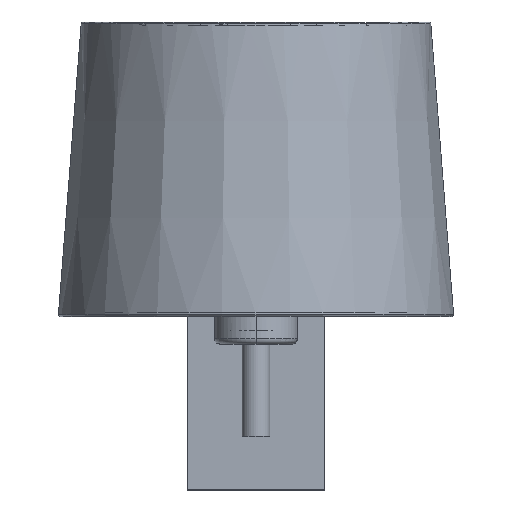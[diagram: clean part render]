
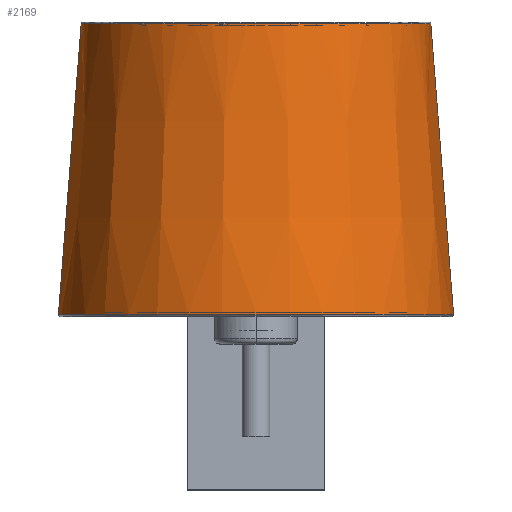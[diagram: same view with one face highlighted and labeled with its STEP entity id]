
A CAD part, top view. The second image highlights one B-rep face of the part: STEP entity #2169.
In plain terms, the highlighted conical face has half-angle 4.466 degrees and reference radius 106.184 mm.
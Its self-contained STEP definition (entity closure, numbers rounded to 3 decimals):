
#33=CONICAL_SURFACE('',#2388,106.184,0.078);
#93=B_SPLINE_CURVE_WITH_KNOTS('',3,(#4852,#4853,#4854,#4855,#4856,#4857,
#4858,#4859,#4860,#4861,#4862,#4863),.UNSPECIFIED.,.F.,.F.,(4,1,1,1,1,1,
1,1,1,4),(0.,0.111,0.222,0.333,0.444,
0.556,0.667,0.778,0.889,
1.),.UNSPECIFIED.);
#307=FACE_OUTER_BOUND('',#455,.T.);
#455=EDGE_LOOP('',(#1872,#1873,#1874,#1875));
#561=CIRCLE('',#2384,107.419);
#716=LINE('',#4865,#872);
#717=LINE('',#4866,#873);
#872=VECTOR('',#2921,304.8);
#873=VECTOR('',#2922,304.8);
#1044=VERTEX_POINT('',#4041);
#1045=VERTEX_POINT('',#4244);
#1046=VERTEX_POINT('',#4451);
#1047=VERTEX_POINT('',#4645);
#1319=EDGE_CURVE('',#1045,#1044,#561,.T.);
#1323=EDGE_CURVE('',#1046,#1047,#93,.T.);
#1324=EDGE_CURVE('',#1044,#1046,#716,.T.);
#1325=EDGE_CURVE('',#1047,#1045,#717,.T.);
#1872=ORIENTED_EDGE('',*,*,#1325,.T.);
#1873=ORIENTED_EDGE('',*,*,#1319,.T.);
#1874=ORIENTED_EDGE('',*,*,#1324,.T.);
#1875=ORIENTED_EDGE('',*,*,#1323,.T.);
#2169=ADVANCED_FACE('',(#307),#33,.T.);
#2384=AXIS2_PLACEMENT_3D('',#4449,#2913,#2914);
#2388=AXIS2_PLACEMENT_3D('',#4867,#2923,#2924);
#2913=DIRECTION('center_axis',(0.,0.,
1.));
#2914=DIRECTION('ref_axis',(-0.588,-0.809,0.));
#2921=DIRECTION('',(0.,0.078,0.997));
#2922=DIRECTION('',(0.,0.078,-0.997));
#2923=DIRECTION('center_axis',(0.,0.,
-1.));
#2924=DIRECTION('ref_axis',(-0.588,-0.809,0.));
#4041=CARTESIAN_POINT('',(0.,-107.419,1.5));
#4244=CARTESIAN_POINT('',(0.,107.419,1.5));
#4449=CARTESIAN_POINT('Origin',(0.,0.,
1.5));
#4451=CARTESIAN_POINT('',(0.,-95.072,159.583));
#4645=CARTESIAN_POINT('',(0.,95.072,159.583));
#4852=CARTESIAN_POINT('Ctrl Pts',(0.,-95.072,
159.583));
#4853=CARTESIAN_POINT('Ctrl Pts',(-11.09,-95.151,159.583));
#4854=CARTESIAN_POINT('Ctrl Pts',(-33.17,-91.134,159.583));
#4855=CARTESIAN_POINT('Ctrl Pts',(-62.368,-74.333,159.583));
#4856=CARTESIAN_POINT('Ctrl Pts',(-84.023,-48.508,159.583));
#4857=CARTESIAN_POINT('Ctrl Pts',(-95.548,-16.849,159.583));
#4858=CARTESIAN_POINT('Ctrl Pts',(-95.548,16.849,159.583));
#4859=CARTESIAN_POINT('Ctrl Pts',(-84.023,48.508,159.583));
#4860=CARTESIAN_POINT('Ctrl Pts',(-62.368,74.333,159.583));
#4861=CARTESIAN_POINT('Ctrl Pts',(-33.17,91.134,159.583));
#4862=CARTESIAN_POINT('Ctrl Pts',(-11.09,95.151,159.583));
#4863=CARTESIAN_POINT('Ctrl Pts',(0.,95.072,
159.583));
#4865=CARTESIAN_POINT('',(0.,-107.419,1.5));
#4866=CARTESIAN_POINT('',(0.,95.072,159.583));
#4867=CARTESIAN_POINT('Origin',(0.,0.,
17.309));
